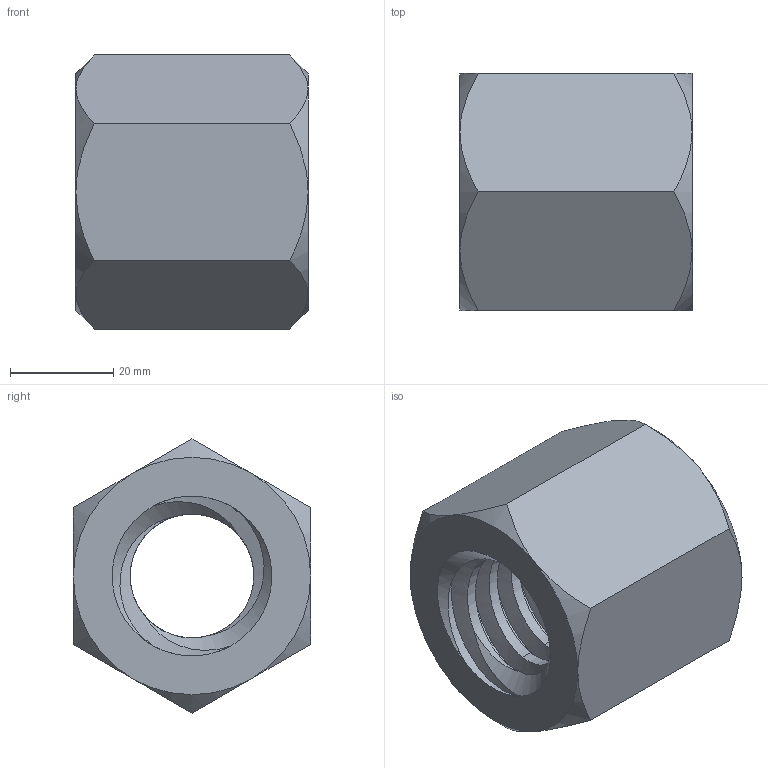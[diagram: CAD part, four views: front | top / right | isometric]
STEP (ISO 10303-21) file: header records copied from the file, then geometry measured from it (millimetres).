
FILE_DESCRIPTION((''),'2;1');
FILE_NAME('711-030-1505_PRT','2024-03-23T',('Brieden'),('ib-brieden'),'PRO/ENGINEER BY PARAMETRIC TECHNOLOGY CORPORATION, 2010160','PRO/ENGINEER BY PARAMETRIC TECHNOLOGY CORPORATION, 2010160','');
FILE_SCHEMA(('AUTOMOTIVE_DESIGN { 1 0 10303 214 1 1 1 1 }'));
Length unit declared in the file: millimetre
Products named in the file (1): 711-030-1505_PRT
Bounding box: 45 x 46 x 53.12 mm (x, y, z)
Volume: 54853.5 mm3; surface area: 16373 mm2
Topology: 1 solids, 1 shells, 49 faces, 117 edges, 70 vertices
Faces by surface type: cone 17, bspline 12, cylinder 12, plane 8
Entity records: 4742 total; most frequent: CARTESIAN_POINT 3717, ORIENTED_EDGE 234, DIRECTION 139, EDGE_CURVE 117, B_SPLINE_CURVE_WITH_KNOTS 73, VERTEX_POINT 70, AXIS2_PLACEMENT_3D 58, EDGE_LOOP 51
